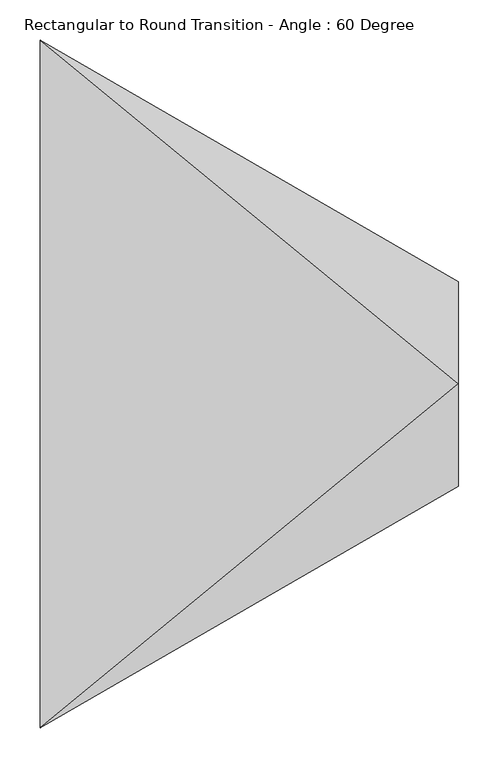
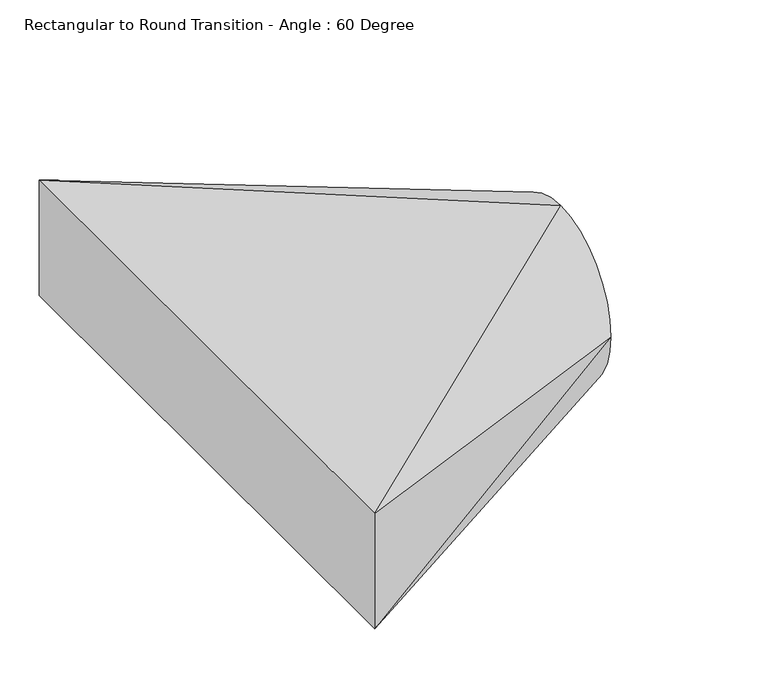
"""IFC4 building model written with IfcOpenShell, lengths in millimetres: duct fitting geometry, Rectangular to Round Transition - Angle : 60 Degree."""

from ifc_helpers import new_model, si_unit, frame, origin, place, context, project, spatial, circle_curve, source, transform, mapped, element, save
from ifc_brep_helpers import plane_surface, spline_surface, advanced_brep


def rectangular_to_round_transition_angle_60_degree_68074483(model_context):
    return source(origin(), model_context, "Body", "AdvancedBrep", [
        advanced_brep(
        [(521.0550095, 0.0, 127.0), (521.0550095, -127.0, 0.0), (521.0550095, 0.0, -127.0), (521.0550095, 127.0, 0.0), (0.0, -427.83125, 89.69375), (0.0, 427.83125, 89.69375), (0.0, 427.83125, -89.69375), (0.0, -427.83125, -89.69375)],
        [
            (0, 1, circle_curve(frame((521.0550095, 0.0, 0.0), z_axis=(1.0, 0.0, 0.0), x_axis=(0.0, 1.0, 0.0)), 127.0)),
            (1, 2, circle_curve(frame((521.0550095, 0.0, 0.0), z_axis=(1.0, 0.0, 0.0), x_axis=(0.0, 1.0, 0.0)), 127.0)),
            (2, 3, circle_curve(frame((521.0550095, 0.0, 0.0), z_axis=(1.0, 0.0, 0.0), x_axis=(0.0, 1.0, 0.0)), 127.0)),
            (3, 0, circle_curve(frame((521.0550095, 0.0, 0.0), z_axis=(1.0, 0.0, 0.0), x_axis=(0.0, 1.0, 0.0)), 127.0)),
            (4, 5),
            (5, 6),
            (6, 7),
            (7, 4),
            (0, 4),
            (4, 1),
            (7, 1),
            (7, 2),
            (6, 2),
            (6, 3),
            (5, 3),
            (5, 0),
        ],
        [
            plane_surface(frame((521.0550095, 0.0, 0.0), z_axis=(1.0, 0.0, 0.0), x_axis=(0.0, 0.0, -1.0))),
            plane_surface(frame((0.0, 0.0, 0.0), z_axis=(-1.0, 0.0, 0.0), x_axis=(0.0, 0.0, -1.0))),
            spline_surface(2, 1, [[(0.0, -427.83125, 89.69375), (521.0550095, 0.0, 127.0)], [(0.0, -427.83125, 89.69375), (521.0550095, -127.0, 127.0)], [(0.0, -427.83125, 89.69375), (521.0550095, -127.0, 0.0)]], [3, 3], [2, 2], [0.0, 1.0], [0.0, 1.0], weights=[[1.0, 1.0], [0.7071067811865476, 0.7071067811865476], [1.0, 1.0]]),
            plane_surface(frame((0.0, -427.83125, 0.0), z_axis=(0.5000000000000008, -0.8660254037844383, 0.0), x_axis=(0.0, 0.0, -1.0))),
            spline_surface(2, 1, [[(0.0, -427.83125, -89.69375), (521.0550095, -127.0, 0.0)], [(0.0, -427.83125, -89.69375), (521.0550095, -127.0, -127.0)], [(0.0, -427.83125, -89.69375), (521.0550095, 0.0, -127.0)]], [3, 3], [2, 2], [0.0, 1.0], [0.0, 1.0], weights=[[1.0, 1.0], [0.7071067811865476, 0.7071067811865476], [1.0, 1.0]]),
            plane_surface(frame((0.0, 0.0, -89.69375), z_axis=(-0.07141471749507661, 0.0, -0.9974467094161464), x_axis=(0.0, 1.0, 0.0))),
            spline_surface(2, 1, [[(0.0, 427.83125, -89.69375), (521.0550095, 0.0, -127.0)], [(0.0, 427.83125, -89.69375), (521.0550095, 127.0, -127.0)], [(0.0, 427.83125, -89.69375), (521.0550095, 127.0, 0.0)]], [3, 3], [2, 2], [0.0, 1.0], [0.0, 1.0], weights=[[1.0, 1.0], [0.7071067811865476, 0.7071067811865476], [1.0, 1.0]]),
            plane_surface(frame((0.0, 427.83125, 0.0), z_axis=(0.4999999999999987, 0.8660254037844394, 0.0), x_axis=(0.0, 0.0, 1.0))),
            spline_surface(2, 1, [[(0.0, 427.83125, 89.69375), (521.0550095, 127.0, 0.0)], [(0.0, 427.83125, 89.69375), (521.0550095, 127.0, 127.0)], [(0.0, 427.83125, 89.69375), (521.0550095, 0.0, 127.0)]], [3, 3], [2, 2], [0.0, 1.0], [0.0, 1.0], weights=[[1.0, 1.0], [0.7071067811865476, 0.7071067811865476], [1.0, 1.0]]),
            plane_surface(frame((0.0, 0.0, 89.69375), z_axis=(-0.07141471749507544, 0.0, 0.9974467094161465), x_axis=(0.0, -1.0, 0.0))),
        ],
        [
            (0, [[1, 2, 3, 4]]),
            (1, [[5, 6, 7, 8]]),
            (2, [[-1, 9, 10]]),
            (3, [[-8, 11, -10]]),
            (4, [[-2, -11, 12]]),
            (5, [[-7, 13, -12]]),
            (6, [[-3, -13, 14]]),
            (7, [[-6, 15, -14]]),
            (8, [[-4, -15, 16]]),
            (9, [[-5, -9, -16]]),
        ],
    ),
    ])


if __name__ == "__main__":
    model = new_model("IFC4")
    model_context = context("Model", 3, world=origin())
    ifc_project = project(units=[si_unit("LENGTHUNIT", "METRE", prefix="MILLI")], contexts=[model_context])
    site = spatial("IfcSite", under=ifc_project)
    building = spatial("IfcBuilding", under=site)
    placement = place(None, origin())
    rectangular_to_round_transition_angle_60_degree_shape = rectangular_to_round_transition_angle_60_degree_68074483(model_context)
    element("IfcDuctFitting", 1, ObjectType="Rectangular to Round Transition - Angle : 60 Degree", at=placement, inside=building, context=model_context, shape_type="MappedRepresentation", body=[
        mapped(rectangular_to_round_transition_angle_60_degree_shape, transform((0.0, 0.0, 0.0), x_axis=(1.0, 0.0, 0.0), y_axis=(0.0, 1.0, 0.0), z_axis=(0.0, 0.0, 1.0))),
    ])
    save(model, "model.ifc")
